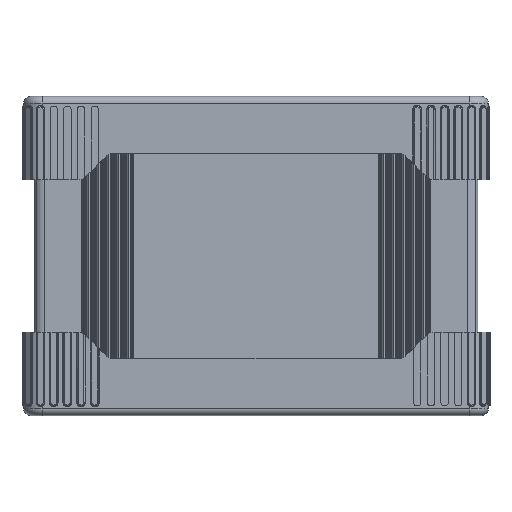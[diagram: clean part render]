
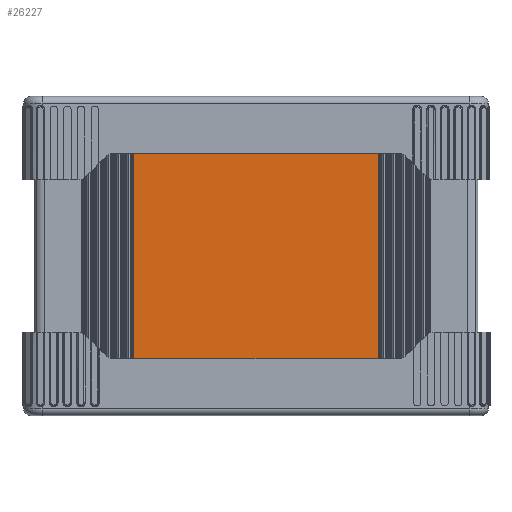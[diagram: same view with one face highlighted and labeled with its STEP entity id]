
A CAD part, front view. The second image highlights one B-rep face of the part: STEP entity #26227.
In plain terms, the highlighted planar face has unit normal (0, -1, 0).
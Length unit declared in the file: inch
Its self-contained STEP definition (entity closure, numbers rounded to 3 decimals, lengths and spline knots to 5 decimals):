
#347 = CARTESIAN_POINT ( 'NONE',  ( -1.44325, -0.33563, 1.5748 ) ) ;
#1940 = PLANE ( 'NONE',  #24307 ) ;
#1954 = EDGE_LOOP ( 'NONE', ( #13609, #14346, #5832, #17448 ) ) ;
#3552 = CARTESIAN_POINT ( 'NONE',  ( 1.44325, -0.33563, 1.5748 ) ) ;
#3731 = CARTESIAN_POINT ( 'NONE',  ( -1.44325, -0.33563, 1.5748 ) ) ;
#4630 = FACE_OUTER_BOUND ( 'NONE', #1954, .T. ) ;
#5650 = LINE ( 'NONE', #20295, #15885 ) ;
#5832 = ORIENTED_EDGE ( 'NONE', *, *, #25377, .T. ) ;
#6830 = EDGE_CURVE ( 'NONE', #8132, #18487, #9437, .T. ) ;
#8073 = DIRECTION ( 'NONE',  ( 0., -1., 0. ) ) ;
#8132 = VERTEX_POINT ( 'NONE', #26013 ) ;
#8869 = VECTOR ( 'NONE', #12513, 39.37008 ) ;
#9437 = LINE ( 'NONE', #21419, #19638 ) ;
#11256 = DIRECTION ( 'NONE',  ( -1., 0., 0. ) ) ;
#12513 = DIRECTION ( 'NONE',  ( -1., 0., 0. ) ) ;
#12596 = VERTEX_POINT ( 'NONE', #3552 ) ;
#13609 = ORIENTED_EDGE ( 'NONE', *, *, #6830, .F. ) ;
#14242 = EDGE_CURVE ( 'NONE', #12596, #8132, #5650, .T. ) ;
#14346 = ORIENTED_EDGE ( 'NONE', *, *, #14242, .F. ) ;
#14935 = LINE ( 'NONE', #24798, #8869 ) ;
#15073 = VECTOR ( 'NONE', #24187, 39.37008 ) ;
#15171 = EDGE_CURVE ( 'NONE', #18358, #18487, #19861, .T. ) ;
#15885 = VECTOR ( 'NONE', #22348, 39.37008 ) ;
#17448 = ORIENTED_EDGE ( 'NONE', *, *, #15171, .T. ) ;
#18358 = VERTEX_POINT ( 'NONE', #347 ) ;
#18487 = VERTEX_POINT ( 'NONE', #23391 ) ;
#19638 = VECTOR ( 'NONE', #11256, 39.37008 ) ;
#19861 = LINE ( 'NONE', #3731, #15073 ) ;
#20199 = CARTESIAN_POINT ( 'NONE',  ( 0., -0.33563, 1.5748 ) ) ;
#20295 = CARTESIAN_POINT ( 'NONE',  ( 1.44325, -0.33563, 1.5748 ) ) ;
#21419 = CARTESIAN_POINT ( 'NONE',  ( 0., -0.33563, -1.5748 ) ) ;
#22343 = DIRECTION ( 'NONE',  ( 1., 0., 0. ) ) ;
#22348 = DIRECTION ( 'NONE',  ( 0., 0., -1. ) ) ;
#23391 = CARTESIAN_POINT ( 'NONE',  ( -1.44325, -0.33563, -1.5748 ) ) ;
#24187 = DIRECTION ( 'NONE',  ( 0., 0., -1. ) ) ;
#24307 = AXIS2_PLACEMENT_3D ( 'NONE', #20199, #8073, #22343 ) ;
#24798 = CARTESIAN_POINT ( 'NONE',  ( 0., -0.33563, 1.5748 ) ) ;
#25377 = EDGE_CURVE ( 'NONE', #12596, #18358, #14935, .T. ) ;
#26013 = CARTESIAN_POINT ( 'NONE',  ( 1.44325, -0.33563, -1.5748 ) ) ;
#26227 = ADVANCED_FACE ( 'NONE', ( #4630 ), #1940, .T. ) ;
